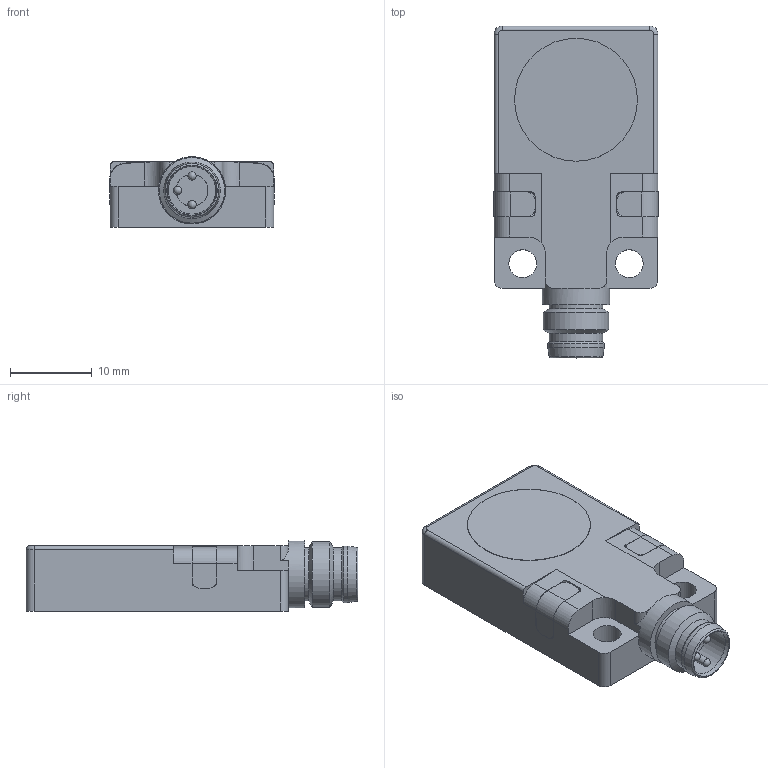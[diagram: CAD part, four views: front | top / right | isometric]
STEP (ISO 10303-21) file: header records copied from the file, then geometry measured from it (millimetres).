
FILE_DESCRIPTION((''),'2;1');
FILE_NAME('C:\TurckZip\Bi-Q08-V2.stp','2009-05-21T14:10:52',('IKOROL'),(''),'Autodesk Inventor 2009','Autodesk Inventor 2009','');
FILE_SCHEMA(('CONFIG_CONTROL_DESIGN'));
Length unit declared in the file: millimetre
Products named in the file (1): Part8
Bounding box: 20.1 x 40.5 x 8.59 mm (x, y, z)
Volume: 4951.9 mm3; surface area: 2676.2 mm2
Topology: 1 solids, 1 shells, 115 faces, 331 edges, 208 vertices
Faces by surface type: cylinder 51, plane 42, bspline 10, cone 7, sphere 3, torus 2
Full cylindrical faces by diameter (mm): 1 x3, 3.4 x2, 5.8 x2, 6.4 x1, 6.5 x2, 6.9 x1, 8 x1, 8.2 x1, 15 x1
Entity records: 3879 total; most frequent: CARTESIAN_POINT 761, DIRECTION 635, ORIENTED_EDGE 596, EDGE_CURVE 298, AXIS2_PLACEMENT_3D 237, VERTEX_POINT 203, VECTOR 161, LINE 161
